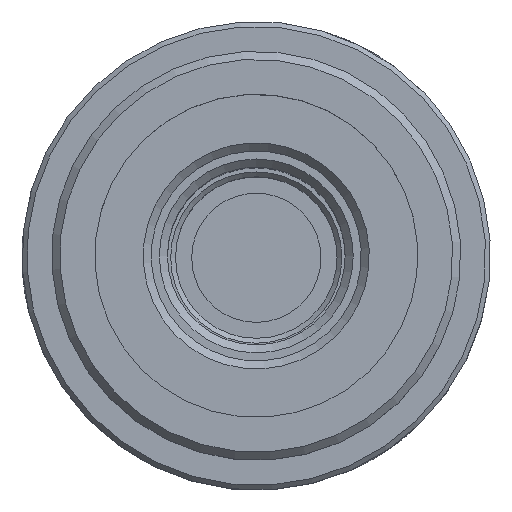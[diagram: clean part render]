
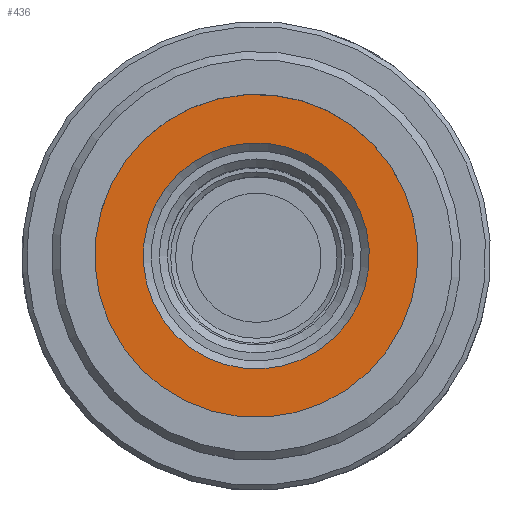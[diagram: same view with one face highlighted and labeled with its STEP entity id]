
A CAD part, top view. The second image highlights one B-rep face of the part: STEP entity #436.
In plain terms, the highlighted planar face has unit normal (0, 0, 1).
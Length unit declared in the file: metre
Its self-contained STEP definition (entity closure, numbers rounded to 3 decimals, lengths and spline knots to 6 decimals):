
#436=ADVANCED_FACE('NONE',(#995,#996),#997,.F.);
#995=FACE_BOUND('',#1672,.T.);
#996=FACE_OUTER_BOUND('',#1673,.T.);
#997=PLANE('',#1674);
#1672=EDGE_LOOP('',(#2821));
#1673=EDGE_LOOP('',(#2822));
#1674=AXIS2_PLACEMENT_3D('',#2823,#2824,#2825);
#2821=ORIENTED_EDGE('',*,*,#3593,.T.);
#2822=ORIENTED_EDGE('',*,*,#3594,.F.);
#2823=CARTESIAN_POINT('',(0.010002,0.000655,0.0294));
#2824=DIRECTION('',(0.,0.0,-1.0));
#2825=DIRECTION('',(0.,1.0,0.));
#3593=EDGE_CURVE('NONE',#4191,#4191,#4192,.T.);
#3594=EDGE_CURVE('NONE',#4193,#4193,#4194,.T.);
#4191=VERTEX_POINT('',#5115);
#4192=CIRCLE('',#5116,0.007);
#4193=VERTEX_POINT('',#5117);
#4194=CIRCLE('',#5118,0.01);
#5115=CARTESIAN_POINT('',(-0.000451,0.006959,0.0294));
#5116=AXIS2_PLACEMENT_3D('',#5987,#5988,#5989);
#5117=CARTESIAN_POINT('',(-0.000655,0.009952,0.0294));
#5118=AXIS2_PLACEMENT_3D('',#5990,#5991,#5992);
#5987=CARTESIAN_POINT('',(0.000025,-0.000025,0.0294));
#5988=DIRECTION('',(0.,0.0,-1.0));
#5989=DIRECTION('',(-0.068,0.998,0.));
#5990=CARTESIAN_POINT('',(0.000025,-0.000025,0.0294));
#5991=DIRECTION('',(0.,0.,-1.0));
#5992=DIRECTION('',(-0.068,0.998,0.));
